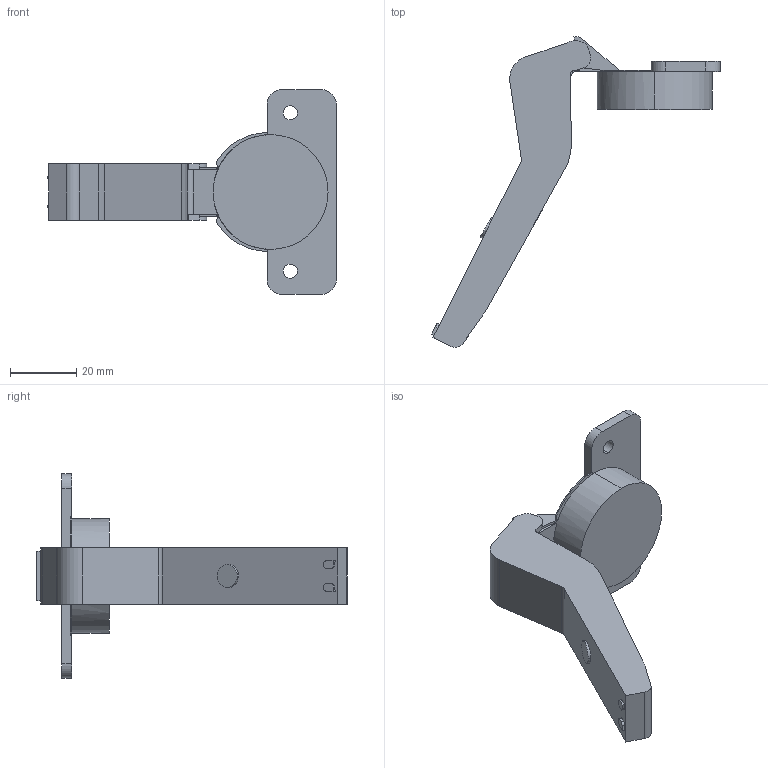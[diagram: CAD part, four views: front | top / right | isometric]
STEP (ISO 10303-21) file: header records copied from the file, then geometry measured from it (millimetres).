
FILE_DESCRIPTION (( 'STEP AP203' ), '1' );
FILE_NAME ('C82E276F-DTC 3D open.STEP', '2024-09-09T00:50:17', ( '微软用户' ), ( '微软中国' ), 'SwSTEP 2.0', 'SolidWorks 2021', '' );
FILE_SCHEMA (( 'CONFIG_CONTROL_DESIGN' ));
Length unit declared in the file: millimetre
Products named in the file (1): C82E276F-DTC 3D open
Bounding box: 87.38 x 94.15 x 61.96 mm (x, y, z)
Volume: 38229.4 mm3; surface area: 11994.2 mm2
Topology: 1 solids, 1 shells, 98 faces, 275 edges, 183 vertices
Faces by surface type: plane 48, cylinder 45, bspline 3, torus 2
Entity records: 3296 total; most frequent: CARTESIAN_POINT 651, ORIENTED_EDGE 550, DIRECTION 535, EDGE_CURVE 275, AXIS2_PLACEMENT_3D 187, VERTEX_POINT 183, LINE 161, VECTOR 161
